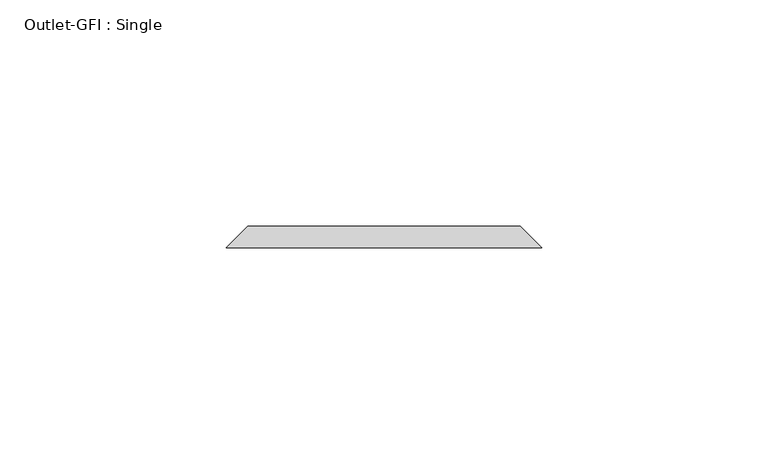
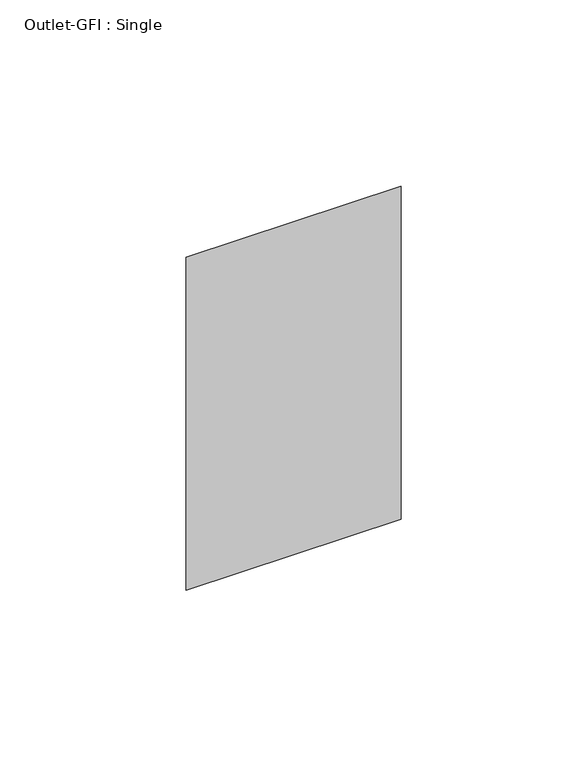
"""IFC4 building model written with IfcOpenShell, lengths in millimetres: proxy geometry, Outlet-GFI : Single."""

from ifc_helpers import new_model, si_unit, origin, place, context, project, spatial, faceted_brep, source, transform, mapped, element, save


def outlet_gfi_single_f183cc38(model_context):
    return source(origin(), model_context, "Body", "Brep", [
        faceted_brep([(-30.1625, 61.9125, 1271.5875), (30.1625, 61.9125, 1271.5875), (30.1625, 61.9125, 1166.8125), (-30.1625, 61.9125, 1166.8125), (-34.925, 57.15, 1276.35), (-34.925, 57.15, 1162.05), (34.925, 57.15, 1162.05), (34.925, 57.15, 1276.35)], [[[0, 1, 2, 3]], [[4, 5, 6, 7]], [[4, 7, 1, 0]], [[7, 6, 2, 1]], [[6, 5, 3, 2]], [[5, 4, 0, 3]]]),
    ])


if __name__ == "__main__":
    model = new_model("IFC4")
    model_context = context("Model", 3, world=origin())
    ifc_project = project(units=[si_unit("LENGTHUNIT", "METRE", prefix="MILLI")], contexts=[model_context])
    site = spatial("IfcSite", under=ifc_project)
    building = spatial("IfcBuilding", under=site)
    placement = place(None, origin())
    outlet_gfi_single_shape = outlet_gfi_single_f183cc38(model_context)
    element("IfcBuildingElementProxy", 1, Name="Outlet-GFI : Single", ObjectType="Outlet-GFI : Single", at=placement, inside=building, context=model_context, shape_type="MappedRepresentation", body=[
        mapped(outlet_gfi_single_shape, transform((0.0, 0.0, 0.0), x_axis=(1.0, 0.0, 0.0), y_axis=(0.0, 1.0, 0.0), z_axis=(0.0, 0.0, 1.0))),
    ])
    save(model, "model.ifc")
